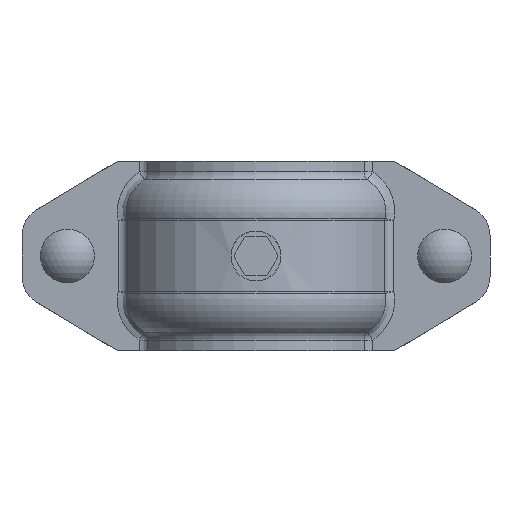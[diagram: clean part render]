
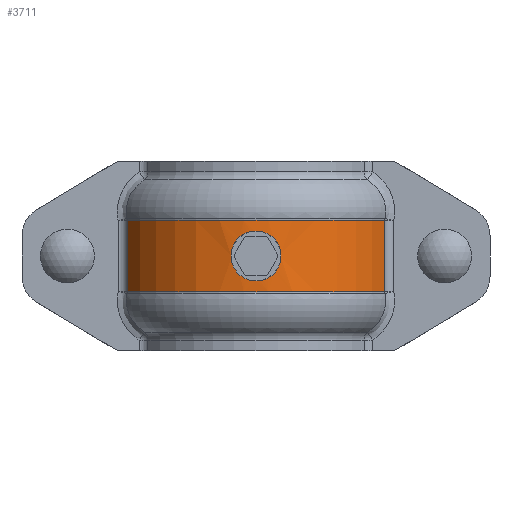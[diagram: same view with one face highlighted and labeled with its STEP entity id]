
A CAD part, front view. The second image highlights one B-rep face of the part: STEP entity #3711.
In plain terms, the highlighted cylindrical face has radius 91.186 mm (diameter 182.372 mm), a partial arc.
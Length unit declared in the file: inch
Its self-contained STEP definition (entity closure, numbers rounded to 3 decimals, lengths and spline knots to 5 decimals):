
#115=B_SPLINE_CURVE_WITH_KNOTS('',3,(#6251,#6252,#6253,#6254,#6255,#6256,
#6257,#6258,#6259,#6260,#6261,#6262,#6263,#6264,#6265,#6266,#6267,#6268,
#6269,#6270,#6271,#6272,#6273,#6274,#6275,#6276,#6277,#6278,#6279,#6280,
#6281,#6282,#6283,#6284,#6285,#6286,#6287,#6288,#6289,#6290,#6291,#6292,
#6293,#6294,#6295,#6296,#6297,#6298,#6299,#6300,#6301,#6302,#6303,#6304,
#6305,#6306,#6307,#6308,#6309,#6310,#6311,#6312,#6313,#6314,#6315,#6316),
 .UNSPECIFIED.,.T.,.F.,(4,2,2,2,2,2,2,2,2,2,2,2,2,2,2,2,2,2,2,2,2,2,2,2,
2,2,2,2,2,2,2,2,4),(0.,0.29966,0.59931,0.89897,
1.19863,1.49828,1.79792,2.09757,2.39722,
2.69687,2.99651,3.29616,3.59581,3.89547,
4.19512,4.49478,4.79444,5.09409,5.39375,
5.69341,5.99306,6.29271,6.59236,6.89201,
7.19165,7.4913,7.79095,8.0906,8.39024,
8.6899,8.98956,9.28922,9.58887),
 .UNSPECIFIED.);
#171=FACE_BOUND('',#555,.T.);
#332=FACE_OUTER_BOUND('',#554,.T.);
#554=EDGE_LOOP('',(#2626,#2627,#2628,#2629));
#555=EDGE_LOOP('',(#2630));
#790=LINE('',#6244,#1066);
#791=LINE('',#6248,#1067);
#1066=VECTOR('',#4588,0.3937);
#1067=VECTOR('',#4591,0.3937);
#1330=CIRCLE('',#3992,3.59);
#1331=CIRCLE('',#3993,3.59);
#1564=VERTEX_POINT('',#6242);
#1565=VERTEX_POINT('',#6243);
#1566=VERTEX_POINT('',#6245);
#1567=VERTEX_POINT('',#6247);
#1568=VERTEX_POINT('',#6250);
#1955=EDGE_CURVE('',#1564,#1565,#790,.T.);
#1956=EDGE_CURVE('',#1564,#1566,#1330,.T.);
#1957=EDGE_CURVE('',#1567,#1566,#791,.T.);
#1958=EDGE_CURVE('',#1565,#1567,#1331,.T.);
#1959=EDGE_CURVE('',#1568,#1568,#115,.T.);
#2626=ORIENTED_EDGE('',*,*,#1955,.F.);
#2627=ORIENTED_EDGE('',*,*,#1956,.T.);
#2628=ORIENTED_EDGE('',*,*,#1957,.F.);
#2629=ORIENTED_EDGE('',*,*,#1958,.F.);
#2630=ORIENTED_EDGE('',*,*,#1959,.T.);
#3410=CYLINDRICAL_SURFACE('',#3991,3.59);
#3711=ADVANCED_FACE('',(#332,#171),#3410,.T.);
#3991=AXIS2_PLACEMENT_3D('',#6241,#4586,#4587);
#3992=AXIS2_PLACEMENT_3D('',#6246,#4589,#4590);
#3993=AXIS2_PLACEMENT_3D('',#6249,#4592,#4593);
#4586=DIRECTION('center_axis',(0.,0.,-1.));
#4587=DIRECTION('ref_axis',(0.,-1.,0.));
#4588=DIRECTION('',(0.,0.,-1.));
#4589=DIRECTION('center_axis',(0.,0.,-1.));
#4590=DIRECTION('ref_axis',(1.,0.,0.));
#4591=DIRECTION('',(0.,0.,1.));
#4592=DIRECTION('center_axis',(0.,0.,-1.));
#4593=DIRECTION('ref_axis',(1.,0.,0.));
#6241=CARTESIAN_POINT('Origin',(0.,0.,-0.44614));
#6242=CARTESIAN_POINT('',(3.22363,-1.57997,0.89229));
#6243=CARTESIAN_POINT('',(3.22363,-1.57997,-0.89229));
#6244=CARTESIAN_POINT('',(3.22363,-1.57997,-0.44614));
#6245=CARTESIAN_POINT('',(-3.22363,-1.57997,0.89229));
#6246=CARTESIAN_POINT('Origin',(0.,0.,0.89229));
#6247=CARTESIAN_POINT('',(-3.22363,-1.57997,-0.89229));
#6248=CARTESIAN_POINT('',(-3.22363,-1.57997,-0.44614));
#6249=CARTESIAN_POINT('Origin',(0.,0.,-0.89229));
#6250=CARTESIAN_POINT('',(-0.625,-3.53518,0.));
#6251=CARTESIAN_POINT('Ctrl Pts',(-0.625,-3.53518,0.));
#6252=CARTESIAN_POINT('Ctrl Pts',(-0.625,-3.53518,0.03933));
#6253=CARTESIAN_POINT('Ctrl Pts',(-0.62123,-3.53585,
0.07997));
#6254=CARTESIAN_POINT('Ctrl Pts',(-0.60537,-3.5386,
0.16076));
#6255=CARTESIAN_POINT('Ctrl Pts',(-0.59329,-3.54067,0.20092));
#6256=CARTESIAN_POINT('Ctrl Pts',(-0.56137,-3.54587,
0.27788));
#6257=CARTESIAN_POINT('Ctrl Pts',(-0.54151,-3.549,
0.31476));
#6258=CARTESIAN_POINT('Ctrl Pts',(-0.49565,-3.5557,0.38294));
#6259=CARTESIAN_POINT('Ctrl Pts',(-0.46964,-3.55926,0.41424));
#6260=CARTESIAN_POINT('Ctrl Pts',(-0.41424,-3.56613,
0.46964));
#6261=CARTESIAN_POINT('Ctrl Pts',(-0.38294,-3.56968,0.49565));
#6262=CARTESIAN_POINT('Ctrl Pts',(-0.31476,-3.57634,
0.54151));
#6263=CARTESIAN_POINT('Ctrl Pts',(-0.27788,-3.57944,
0.56137));
#6264=CARTESIAN_POINT('Ctrl Pts',(-0.20091,-3.58458,
0.59329));
#6265=CARTESIAN_POINT('Ctrl Pts',(-0.16076,-3.58663,
0.60537));
#6266=CARTESIAN_POINT('Ctrl Pts',(-0.07997,-3.58934,
0.62123));
#6267=CARTESIAN_POINT('Ctrl Pts',(-0.03932,-3.59,0.625));
#6268=CARTESIAN_POINT('Ctrl Pts',(0.03932,-3.59,0.625));
#6269=CARTESIAN_POINT('Ctrl Pts',(0.07997,-3.58934,
0.62123));
#6270=CARTESIAN_POINT('Ctrl Pts',(0.16076,-3.58663,0.60537));
#6271=CARTESIAN_POINT('Ctrl Pts',(0.20091,-3.58458,0.59329));
#6272=CARTESIAN_POINT('Ctrl Pts',(0.27788,-3.57944,0.56137));
#6273=CARTESIAN_POINT('Ctrl Pts',(0.31476,-3.57634,0.54151));
#6274=CARTESIAN_POINT('Ctrl Pts',(0.38294,-3.56968,0.49565));
#6275=CARTESIAN_POINT('Ctrl Pts',(0.41424,-3.56613,0.46964));
#6276=CARTESIAN_POINT('Ctrl Pts',(0.46964,-3.55926,0.41424));
#6277=CARTESIAN_POINT('Ctrl Pts',(0.49565,-3.5557,0.38294));
#6278=CARTESIAN_POINT('Ctrl Pts',(0.54151,-3.549,0.31476));
#6279=CARTESIAN_POINT('Ctrl Pts',(0.56137,-3.54587,0.27788));
#6280=CARTESIAN_POINT('Ctrl Pts',(0.59329,-3.54067,0.20092));
#6281=CARTESIAN_POINT('Ctrl Pts',(0.60537,-3.5386,0.16076));
#6282=CARTESIAN_POINT('Ctrl Pts',(0.62123,-3.53585,0.07997));
#6283=CARTESIAN_POINT('Ctrl Pts',(0.625,-3.53518,0.03933));
#6284=CARTESIAN_POINT('Ctrl Pts',(0.625,-3.53518,-0.03933));
#6285=CARTESIAN_POINT('Ctrl Pts',(0.62123,-3.53585,-0.07997));
#6286=CARTESIAN_POINT('Ctrl Pts',(0.60537,-3.5386,-0.16076));
#6287=CARTESIAN_POINT('Ctrl Pts',(0.59329,-3.54067,-0.20092));
#6288=CARTESIAN_POINT('Ctrl Pts',(0.56137,-3.54587,-0.27788));
#6289=CARTESIAN_POINT('Ctrl Pts',(0.54151,-3.549,-0.31476));
#6290=CARTESIAN_POINT('Ctrl Pts',(0.49565,-3.5557,-0.38294));
#6291=CARTESIAN_POINT('Ctrl Pts',(0.46964,-3.55926,-0.41424));
#6292=CARTESIAN_POINT('Ctrl Pts',(0.41424,-3.56613,-0.46964));
#6293=CARTESIAN_POINT('Ctrl Pts',(0.38294,-3.56968,-0.49565));
#6294=CARTESIAN_POINT('Ctrl Pts',(0.31476,-3.57634,-0.54151));
#6295=CARTESIAN_POINT('Ctrl Pts',(0.27788,-3.57944,-0.56137));
#6296=CARTESIAN_POINT('Ctrl Pts',(0.20091,-3.58458,-0.59329));
#6297=CARTESIAN_POINT('Ctrl Pts',(0.16076,-3.58663,-0.60537));
#6298=CARTESIAN_POINT('Ctrl Pts',(0.07997,-3.58934,
-0.62123));
#6299=CARTESIAN_POINT('Ctrl Pts',(0.03932,-3.59,-0.625));
#6300=CARTESIAN_POINT('Ctrl Pts',(-0.03932,-3.59,-0.625));
#6301=CARTESIAN_POINT('Ctrl Pts',(-0.07997,-3.58934,
-0.62123));
#6302=CARTESIAN_POINT('Ctrl Pts',(-0.16076,-3.58663,
-0.60537));
#6303=CARTESIAN_POINT('Ctrl Pts',(-0.20091,-3.58458,
-0.59329));
#6304=CARTESIAN_POINT('Ctrl Pts',(-0.27788,-3.57944,
-0.56137));
#6305=CARTESIAN_POINT('Ctrl Pts',(-0.31476,-3.57634,
-0.54151));
#6306=CARTESIAN_POINT('Ctrl Pts',(-0.38294,-3.56968,-0.49565));
#6307=CARTESIAN_POINT('Ctrl Pts',(-0.41424,-3.56613,
-0.46964));
#6308=CARTESIAN_POINT('Ctrl Pts',(-0.46964,-3.55926,-0.41424));
#6309=CARTESIAN_POINT('Ctrl Pts',(-0.49565,-3.5557,-0.38294));
#6310=CARTESIAN_POINT('Ctrl Pts',(-0.54151,-3.549,
-0.31476));
#6311=CARTESIAN_POINT('Ctrl Pts',(-0.56137,-3.54587,
-0.27788));
#6312=CARTESIAN_POINT('Ctrl Pts',(-0.59329,-3.54067,-0.20092));
#6313=CARTESIAN_POINT('Ctrl Pts',(-0.60537,-3.5386,
-0.16076));
#6314=CARTESIAN_POINT('Ctrl Pts',(-0.62123,-3.53585,
-0.07997));
#6315=CARTESIAN_POINT('Ctrl Pts',(-0.625,-3.53518,-0.03933));
#6316=CARTESIAN_POINT('Ctrl Pts',(-0.625,-3.53518,0.));
